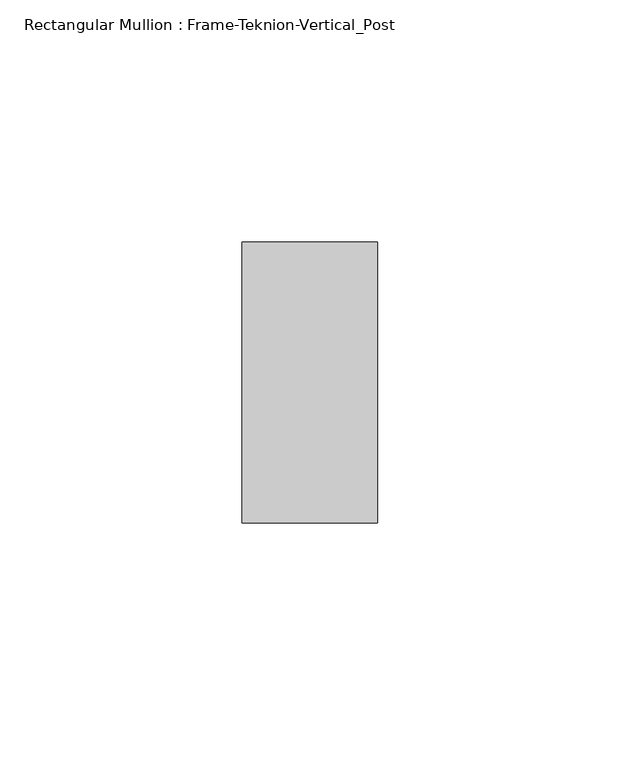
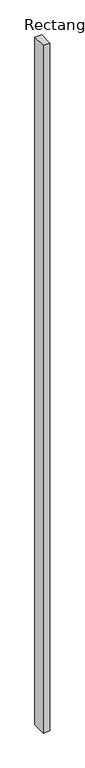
"""IFC4 building model written with IfcOpenShell, lengths in millimetres: member geometry, Rectangular Mullion : Frame-Teknion-Vertical_Post."""

from ifc_helpers import new_model, si_unit, frame, origin, place, context, project, spatial, polyline, outline, extrude, source, transform, mapped, element, save


def rectangular_mullion_frame_teknion_vertical_post_1d992eec(model_context):
    return source(origin(), model_context, "Body", "SweptSolid", [
        extrude(outline(polyline([(-13.9898438, 28.971875), (13.9898438, 28.971875), (13.9898438, -28.971875), (-13.9898438, -28.971875), (-13.9898438, 28.971875)])), frame((0.0, 0.0, -2962.0754327), z_axis=(0.0, 0.0, 1.0), x_axis=(1.0, 0.0, 0.0)), (0.0, 0.0, 1.0), 2962.0754327),
    ])


if __name__ == "__main__":
    model = new_model("IFC4")
    model_context = context("Model", 3, world=origin())
    ifc_project = project(units=[si_unit("LENGTHUNIT", "METRE", prefix="MILLI")], contexts=[model_context])
    site = spatial("IfcSite", under=ifc_project)
    building = spatial("IfcBuilding", under=site)
    placement = place(None, origin())
    rectangular_mullion_frame_teknion_vertical_post_shape = rectangular_mullion_frame_teknion_vertical_post_1d992eec(model_context)
    element("IfcMember", 1, ObjectType="Rectangular Mullion : Frame-Teknion-Vertical_Post", at=placement, inside=building, context=model_context, shape_type="MappedRepresentation", body=[
        mapped(rectangular_mullion_frame_teknion_vertical_post_shape, transform((0.0, 0.0, 0.0), x_axis=(1.0, 0.0, 0.0), y_axis=(0.0, 1.0, 0.0), z_axis=(0.0, 0.0, 1.0))),
    ])
    save(model, "model.ifc")
